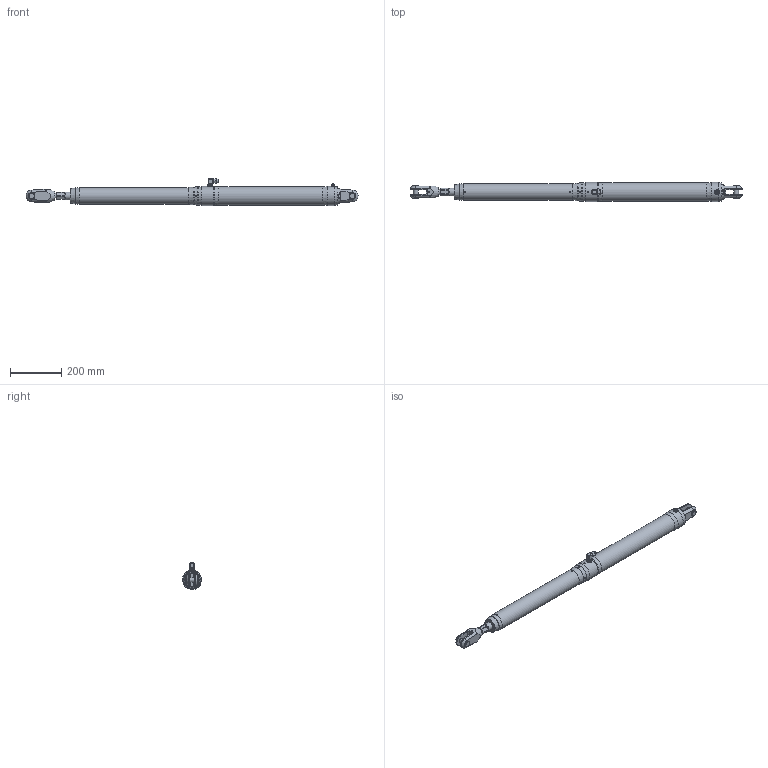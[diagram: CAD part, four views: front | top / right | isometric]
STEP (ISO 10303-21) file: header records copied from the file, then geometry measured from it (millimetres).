
FILE_DESCRIPTION(/* description */ (''),/* implementation_level */ '2;1');
FILE_NAME(/* name */ 'Q:\AA BRAND HYDRAULICS\HYDRAULICS FAMILY DIRECTORY\HYDRAULICS\CYLINDERS\MECHANICAL LOCK RAMS\ALUMINIUM - STAINLESS SINGLE ACTING (-0012 To -0150)\MSA-0022-S0400-NP-71\MSA-0022-S0400-NP-71 (Closed).stp',/* time_stamp */ '2018-04-25T15:41:50+01:00',/* author */ ('Lorena'),/* organization */ (''),/* preprocessor_version */ 'ST-DEVELOPER v17',/* originating_system */ 'Autodesk Inventor 2018',/* authorisation */ '');
FILE_SCHEMA (('AUTOMOTIVE_DESIGN { 1 0 10303 214 3 1 1 }'));
Length unit declared in the file: millimetre
Products named in the file (1): MSA-0022-S0400-NP-71 (Closed)
Bounding box: 1289.98 x 74.2 x 105 mm (x, y, z)
Volume: 4168356.4 mm3; surface area: 285980.8 mm2
Topology: 2 solids, 4 shells, 491 faces, 1287 edges, 839 vertices
Faces by surface type: plane 279, cone 119, cylinder 78, torus 6, bspline 5, sphere 4
Full cylindrical faces by diameter (mm): 4 x5, 4.2 x2, 4.4 x1, 5 x4, 5.1 x1, 7 x1, 9 x1, 10 x2, 11.11 x1, 11.157 x1, 11.5 x1, 11.8 x1, 12 x3, 12.157 x1, 13 x1, 13.157 x2, 14.5 x2, 18.3 x3, 19.05 x2, 19.5 x1, 22 x1, 23.812 x2, 30 x2, 31 x2, 34 x1, 65 x1, 71.2 x1, 74.2 x4
Entity records: 16696 total; most frequent: CARTESIAN_POINT 4220, ORIENTED_EDGE 2554, DIRECTION 2489, EDGE_CURVE 1277, AXIS2_PLACEMENT_3D 958, VERTEX_POINT 839, LINE 573, VECTOR 573
